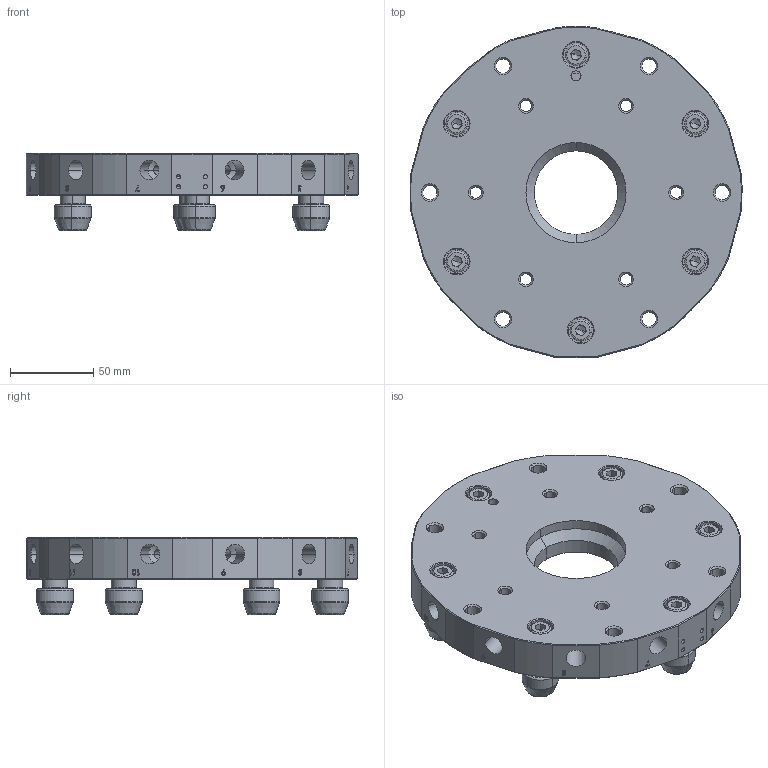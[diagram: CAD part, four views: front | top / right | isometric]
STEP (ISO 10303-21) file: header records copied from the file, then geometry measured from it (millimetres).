
FILE_DESCRIPTION (( 'STEP AP203' ), '1' );
FILE_NAME ('QC-G200.STEP', '2024-03-20T05:56:49', ( '微软用户' ), ( '微软中国' ), 'SwSTEP 2.0', 'SolidWorks 2018', '' );
FILE_SCHEMA (( 'CONFIG_CONTROL_DESIGN' ));
Length unit declared in the file: millimetre
Products named in the file (1): QC-G200
Bounding box: 198.84 x 198.25 x 46.22 mm (x, y, z)
Volume: 581178.9 mm3; surface area: 121248.9 mm2
Topology: 1 solids, 1 shells, 763 faces, 1758 edges, 1056 vertices
Faces by surface type: plane 259, cylinder 223, cone 139, torus 96, bspline 46
Entity records: 27333 total; most frequent: CARTESIAN_POINT 9918, DIRECTION 3740, ORIENTED_EDGE 3484, EDGE_CURVE 1742, AXIS2_PLACEMENT_3D 1472, VERTEX_POINT 1056, EDGE_LOOP 888, VECTOR 796
